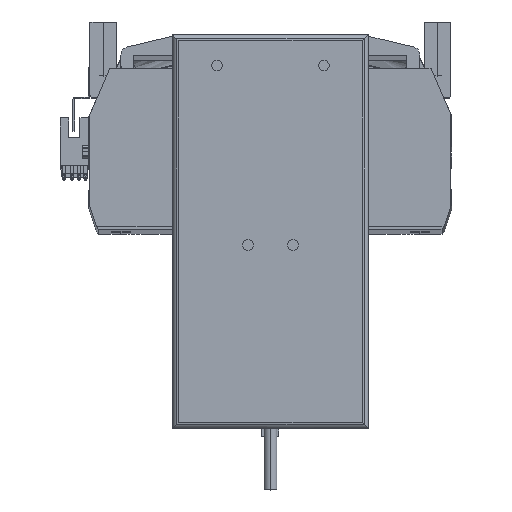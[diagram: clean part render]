
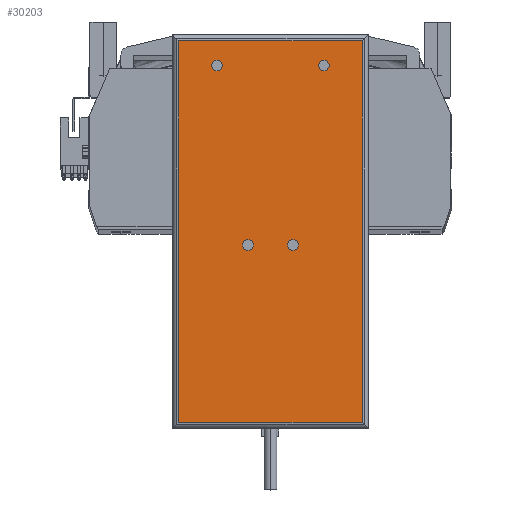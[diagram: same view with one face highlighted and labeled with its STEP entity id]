
A CAD part, top view. The second image highlights one B-rep face of the part: STEP entity #30203.
In plain terms, the highlighted planar face has unit normal (0, 0, 1) as drawn and (0, 0, -1) by its records, which use the part's own axes.
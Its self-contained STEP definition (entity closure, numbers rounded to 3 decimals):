
#1902 = VERTEX_POINT ( 'NONE', #47984 ) ;
#3963 = EDGE_CURVE ( 'NONE', #15673, #27743, #20708, .T. ) ;
#4486 = CARTESIAN_POINT ( 'NONE',  ( -8., -6.25, 0. ) ) ;
#5004 = ORIENTED_EDGE ( 'NONE', *, *, #13026, .T. ) ;
#6073 = CARTESIAN_POINT ( 'NONE',  ( 10.5, -6.25, 0. ) ) ;
#6248 = DIRECTION ( 'NONE',  ( 0., 0., -1. ) ) ;
#6538 = ORIENTED_EDGE ( 'NONE', *, *, #25403, .T. ) ;
#7222 = DIRECTION ( 'NONE',  ( -1., 0., 0. ) ) ;
#8171 = DIRECTION ( 'NONE',  ( -1., 0., 0. ) ) ;
#8192 = VERTEX_POINT ( 'NONE', #11777 ) ;
#8440 = EDGE_LOOP ( 'NONE', ( #14110, #9586 ) ) ;
#9586 = ORIENTED_EDGE ( 'NONE', *, *, #25033, .F. ) ;
#9871 = CARTESIAN_POINT ( 'NONE',  ( -46., -92.25, 0. ) ) ;
#10805 = ORIENTED_EDGE ( 'NONE', *, *, #31455, .F. ) ;
#11286 = AXIS2_PLACEMENT_3D ( 'NONE', #47321, #20352, #47653 ) ;
#11313 = CARTESIAN_POINT ( 'NONE',  ( 25., 77.75, 0. ) ) ;
#11359 = DIRECTION ( 'NONE',  ( 0., 1., 0. ) ) ;
#11416 = CARTESIAN_POINT ( 'NONE',  ( -25., 77.75, 0. ) ) ;
#11777 = CARTESIAN_POINT ( 'NONE',  ( 13., -6.25, 0. ) ) ;
#12754 = VECTOR ( 'NONE', #49164, 1000. ) ;
#13026 = EDGE_CURVE ( 'NONE', #32689, #14754, #20653, .T. ) ;
#13349 = CARTESIAN_POINT ( 'NONE',  ( -46., 89.25, 0. ) ) ;
#13541 = ORIENTED_EDGE ( 'NONE', *, *, #36030, .F. ) ;
#13676 = EDGE_LOOP ( 'NONE', ( #15123, #44814 ) ) ;
#14110 = ORIENTED_EDGE ( 'NONE', *, *, #37069, .F. ) ;
#14569 = AXIS2_PLACEMENT_3D ( 'NONE', #24635, #48193, #17478 ) ;
#14584 = VERTEX_POINT ( 'NONE', #27730 ) ;
#14754 = VERTEX_POINT ( 'NONE', #16662 ) ;
#15123 = ORIENTED_EDGE ( 'NONE', *, *, #36912, .F. ) ;
#15673 = VERTEX_POINT ( 'NONE', #43756 ) ;
#16662 = CARTESIAN_POINT ( 'NONE',  ( -43., -89.25, 0. ) ) ;
#17278 = FACE_BOUND ( 'NONE', #8440, .T. ) ;
#17303 = ORIENTED_EDGE ( 'NONE', *, *, #44030, .T. ) ;
#17478 = DIRECTION ( 'NONE',  ( -1., 0., 0. ) ) ;
#18024 = CIRCLE ( 'NONE', #23543, 2.5 ) ;
#18492 = FACE_OUTER_BOUND ( 'NONE', #38339, .T. ) ;
#18689 = ORIENTED_EDGE ( 'NONE', *, *, #3963, .T. ) ;
#18968 = CIRCLE ( 'NONE', #23400, 2.5 ) ;
#19945 = VERTEX_POINT ( 'NONE', #36387 ) ;
#19984 = EDGE_LOOP ( 'NONE', ( #47750, #44534 ) ) ;
#20084 = AXIS2_PLACEMENT_3D ( 'NONE', #24767, #20857, #36709 ) ;
#20131 = VECTOR ( 'NONE', #33261, 1000. ) ;
#20352 = DIRECTION ( 'NONE',  ( 0., 0., -1. ) ) ;
#20653 = LINE ( 'NONE', #49646, #12754 ) ;
#20708 = LINE ( 'NONE', #13349, #20131 ) ;
#20857 = DIRECTION ( 'NONE',  ( 0., 0., -1. ) ) ;
#20902 = CIRCLE ( 'NONE', #14569, 2.5 ) ;
#20922 = CARTESIAN_POINT ( 'NONE',  ( 22.5, 77.75, 0. ) ) ;
#21496 = CIRCLE ( 'NONE', #44483, 2.5 ) ;
#23296 = CARTESIAN_POINT ( 'NONE',  ( -13., -6.25, 0. ) ) ;
#23400 = AXIS2_PLACEMENT_3D ( 'NONE', #6073, #6248, #33515 ) ;
#23543 = AXIS2_PLACEMENT_3D ( 'NONE', #38724, #46238, #30197 ) ;
#24017 = EDGE_LOOP ( 'NONE', ( #10805, #13541 ) ) ;
#24591 = CARTESIAN_POINT ( 'NONE',  ( 43., 89.25, 0. ) ) ;
#24602 = FACE_BOUND ( 'NONE', #19984, .T. ) ;
#24635 = CARTESIAN_POINT ( 'NONE',  ( -10.5, -6.25, 0. ) ) ;
#24767 = CARTESIAN_POINT ( 'NONE',  ( 25., 77.75, 0. ) ) ;
#25033 = EDGE_CURVE ( 'NONE', #14584, #27428, #21496, .T. ) ;
#25403 = EDGE_CURVE ( 'NONE', #27743, #32689, #37277, .T. ) ;
#25699 = PLANE ( 'NONE',  #37731 ) ;
#27046 = FACE_BOUND ( 'NONE', #24017, .T. ) ;
#27428 = VERTEX_POINT ( 'NONE', #20922 ) ;
#27730 = CARTESIAN_POINT ( 'NONE',  ( 27.5, 77.75, 0. ) ) ;
#27743 = VERTEX_POINT ( 'NONE', #24591 ) ;
#28097 = CIRCLE ( 'NONE', #20084, 2.5 ) ;
#28141 = CARTESIAN_POINT ( 'NONE',  ( -10.5, -6.25, 0. ) ) ;
#28838 = VECTOR ( 'NONE', #11359, 1000. ) ;
#29244 = CARTESIAN_POINT ( 'NONE',  ( 43., -89.25, 0. ) ) ;
#30197 = DIRECTION ( 'NONE',  ( -1., 0., 0. ) ) ;
#30203 = ADVANCED_FACE ( 'NONE', ( #18492, #24602, #27046, #45965, #17278 ), #25699, .F. ) ;
#30298 = CIRCLE ( 'NONE', #42707, 2.5 ) ;
#30717 = EDGE_CURVE ( 'NONE', #44116, #31758, #20902, .T. ) ;
#31455 = EDGE_CURVE ( 'NONE', #42016, #8192, #18968, .T. ) ;
#31505 = DIRECTION ( 'NONE',  ( 0., 0., -1. ) ) ;
#31758 = VERTEX_POINT ( 'NONE', #4486 ) ;
#32224 = DIRECTION ( 'NONE',  ( 0., 0., -1. ) ) ;
#32377 = VECTOR ( 'NONE', #40450, 1000. ) ;
#32689 = VERTEX_POINT ( 'NONE', #29244 ) ;
#33261 = DIRECTION ( 'NONE',  ( 1., 0., 0. ) ) ;
#33515 = DIRECTION ( 'NONE',  ( -1., 0., 0. ) ) ;
#34015 = EDGE_CURVE ( 'NONE', #31758, #44116, #36467, .T. ) ;
#35651 = DIRECTION ( 'NONE',  ( -1., 0., 0. ) ) ;
#36030 = EDGE_CURVE ( 'NONE', #8192, #42016, #18024, .T. ) ;
#36171 = CARTESIAN_POINT ( 'NONE',  ( 43., -92.25, 0. ) ) ;
#36387 = CARTESIAN_POINT ( 'NONE',  ( -22.5, 77.75, 0. ) ) ;
#36467 = CIRCLE ( 'NONE', #48647, 2.5 ) ;
#36654 = CIRCLE ( 'NONE', #11286, 2.5 ) ;
#36709 = DIRECTION ( 'NONE',  ( -1., 0., 0. ) ) ;
#36912 = EDGE_CURVE ( 'NONE', #1902, #19945, #36654, .T. ) ;
#37069 = EDGE_CURVE ( 'NONE', #27428, #14584, #28097, .T. ) ;
#37149 = DIRECTION ( 'NONE',  ( 1., 0., 0. ) ) ;
#37277 = LINE ( 'NONE', #36171, #32377 ) ;
#37731 = AXIS2_PLACEMENT_3D ( 'NONE', #9871, #45173, #37149 ) ;
#38067 = DIRECTION ( 'NONE',  ( 0., 0., -1. ) ) ;
#38339 = EDGE_LOOP ( 'NONE', ( #6538, #5004, #17303, #18689 ) ) ;
#38724 = CARTESIAN_POINT ( 'NONE',  ( 10.5, -6.25, 0. ) ) ;
#39224 = LINE ( 'NONE', #42369, #28838 ) ;
#40076 = EDGE_CURVE ( 'NONE', #19945, #1902, #30298, .T. ) ;
#40450 = DIRECTION ( 'NONE',  ( 0., -1., 0. ) ) ;
#42016 = VERTEX_POINT ( 'NONE', #45217 ) ;
#42369 = CARTESIAN_POINT ( 'NONE',  ( -43., -92.25, 0. ) ) ;
#42707 = AXIS2_PLACEMENT_3D ( 'NONE', #11416, #31505, #8171 ) ;
#43756 = CARTESIAN_POINT ( 'NONE',  ( -43., 89.25, 0. ) ) ;
#44030 = EDGE_CURVE ( 'NONE', #14754, #15673, #39224, .T. ) ;
#44116 = VERTEX_POINT ( 'NONE', #23296 ) ;
#44483 = AXIS2_PLACEMENT_3D ( 'NONE', #11313, #38067, #7222 ) ;
#44534 = ORIENTED_EDGE ( 'NONE', *, *, #34015, .F. ) ;
#44814 = ORIENTED_EDGE ( 'NONE', *, *, #40076, .F. ) ;
#45173 = DIRECTION ( 'NONE',  ( 0., 0., 1. ) ) ;
#45217 = CARTESIAN_POINT ( 'NONE',  ( 8., -6.25, 0. ) ) ;
#45965 = FACE_BOUND ( 'NONE', #13676, .T. ) ;
#46238 = DIRECTION ( 'NONE',  ( 0., 0., -1. ) ) ;
#47321 = CARTESIAN_POINT ( 'NONE',  ( -25., 77.75, 0. ) ) ;
#47653 = DIRECTION ( 'NONE',  ( -1., 0., 0. ) ) ;
#47750 = ORIENTED_EDGE ( 'NONE', *, *, #30717, .F. ) ;
#47984 = CARTESIAN_POINT ( 'NONE',  ( -27.5, 77.75, 0. ) ) ;
#48193 = DIRECTION ( 'NONE',  ( 0., 0., -1. ) ) ;
#48647 = AXIS2_PLACEMENT_3D ( 'NONE', #28141, #32224, #35651 ) ;
#49164 = DIRECTION ( 'NONE',  ( -1., 0., 0. ) ) ;
#49646 = CARTESIAN_POINT ( 'NONE',  ( -46., -89.25, 0. ) ) ;
